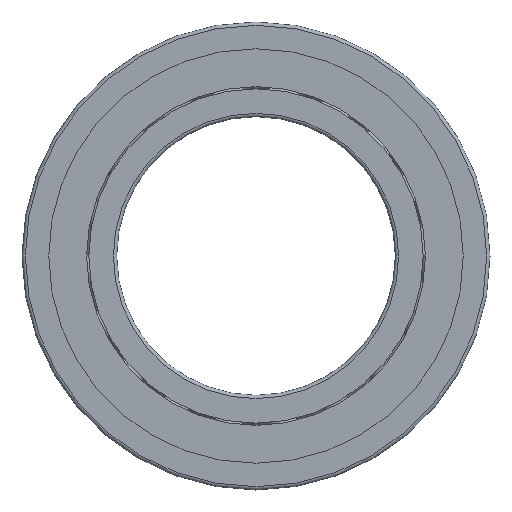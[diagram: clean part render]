
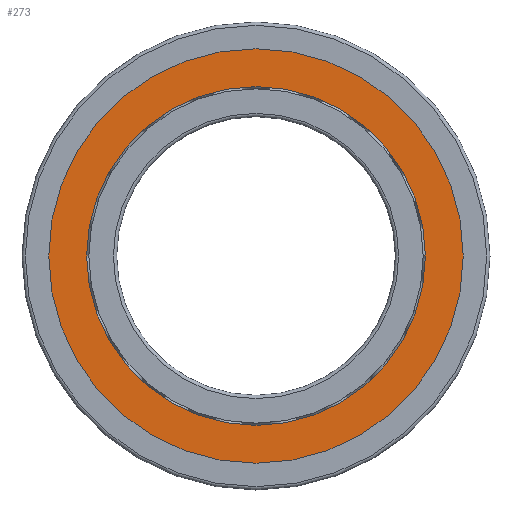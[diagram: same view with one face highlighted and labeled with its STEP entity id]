
A CAD part, left-side view. The second image highlights one B-rep face of the part: STEP entity #273.
In plain terms, the highlighted planar face has unit normal (-1, 0, 0).
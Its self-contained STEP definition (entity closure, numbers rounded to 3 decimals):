
#222=PLANE('',#991);
#273=ADVANCED_FACE('',(#358,#359),#222,.F.);
#358=FACE_BOUND('',#517,.T.);
#359=FACE_BOUND('',#518,.T.);
#517=EDGE_LOOP('',(#657));
#518=EDGE_LOOP('',(#658));
#657=ORIENTED_EDGE('',*,*,#878,.F.);
#658=ORIENTED_EDGE('',*,*,#876,.T.);
#787=VERTEX_POINT('',#1305);
#789=VERTEX_POINT('',#1310);
#876=EDGE_CURVE('',#787,#787,#946,.T.);
#878=EDGE_CURVE('',#789,#789,#948,.T.);
#946=CIRCLE('',#987,18.6);
#948=CIRCLE('',#990,15.2);
#987=AXIS2_PLACEMENT_3D('',#1304,#1107,#1108);
#990=AXIS2_PLACEMENT_3D('',#1309,#1113,#1114);
#991=AXIS2_PLACEMENT_3D('',#1311,#1115,#1116);
#1107=DIRECTION('',(-1.,0.,0.));
#1108=DIRECTION('',(0.,0.,1.));
#1113=DIRECTION('',(-1.,0.,0.));
#1114=DIRECTION('',(0.,0.,1.));
#1115=DIRECTION('',(1.,0.,0.));
#1116=DIRECTION('',(0.,0.,-1.));
#1304=CARTESIAN_POINT('',(0.1,0.,0.));
#1305=CARTESIAN_POINT('',(0.1,0.,18.6));
#1309=CARTESIAN_POINT('',(0.1,0.,0.));
#1310=CARTESIAN_POINT('',(0.1,0.,15.2));
#1311=CARTESIAN_POINT('',(0.1,0.,18.6));
